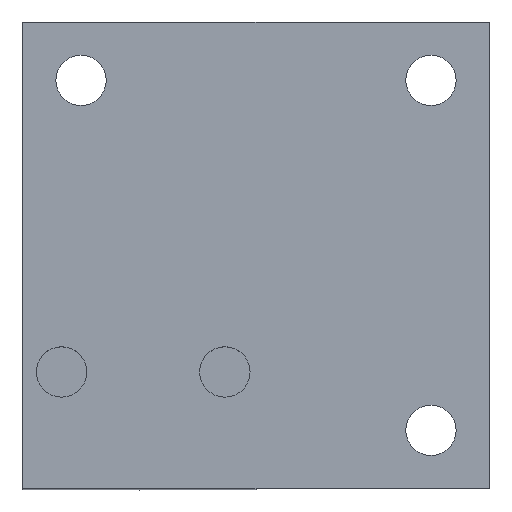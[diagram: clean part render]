
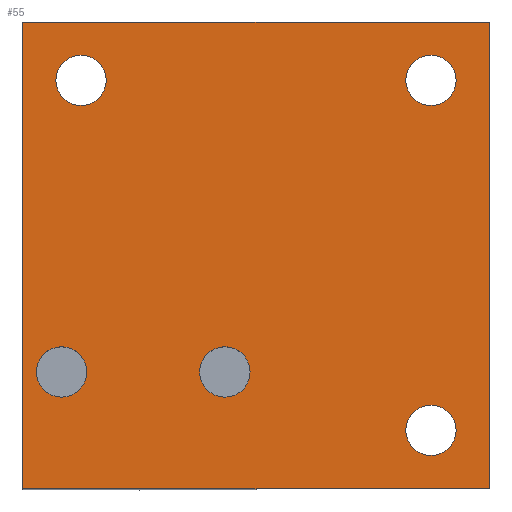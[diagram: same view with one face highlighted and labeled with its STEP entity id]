
A CAD part, top view. The second image highlights one B-rep face of the part: STEP entity #55.
In plain terms, the highlighted planar face has unit normal (0, 0, 1).
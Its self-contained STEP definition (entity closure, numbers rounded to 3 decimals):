
#55 = ADVANCED_FACE( '', ( #121, #122, #123, #124, #125, #126 ), #127, .T. );
#121 = FACE_BOUND( '', #205, .T. );
#122 = FACE_BOUND( '', #206, .T. );
#123 = FACE_OUTER_BOUND( '', #207, .T. );
#124 = FACE_BOUND( '', #208, .T. );
#125 = FACE_BOUND( '', #209, .T. );
#126 = FACE_BOUND( '', #210, .T. );
#127 = PLANE( '', #211 );
#205 = EDGE_LOOP( '', ( #308 ) );
#206 = EDGE_LOOP( '', ( #309 ) );
#207 = EDGE_LOOP( '', ( #310, #311, #312, #313 ) );
#208 = EDGE_LOOP( '', ( #314 ) );
#209 = EDGE_LOOP( '', ( #315 ) );
#210 = EDGE_LOOP( '', ( #316 ) );
#211 = AXIS2_PLACEMENT_3D( '', #317, #318, #319 );
#308 = ORIENTED_EDGE( '', *, *, #455, .F. );
#309 = ORIENTED_EDGE( '', *, *, #456, .F. );
#310 = ORIENTED_EDGE( '', *, *, #457, .T. );
#311 = ORIENTED_EDGE( '', *, *, #431, .T. );
#312 = ORIENTED_EDGE( '', *, *, #458, .T. );
#313 = ORIENTED_EDGE( '', *, *, #459, .T. );
#314 = ORIENTED_EDGE( '', *, *, #460, .F. );
#315 = ORIENTED_EDGE( '', *, *, #461, .F. );
#316 = ORIENTED_EDGE( '', *, *, #439, .F. );
#317 = CARTESIAN_POINT( '', ( 0., 0., 0. ) );
#318 = DIRECTION( '', ( 0., 0., 1. ) );
#319 = DIRECTION( '', ( 1., 0., 0. ) );
#431 = EDGE_CURVE( '', #494, #492, #495, .T. );
#439 = EDGE_CURVE( '', #508, #508, #509, .T. );
#455 = EDGE_CURVE( '', #533, #533, #534, .T. );
#456 = EDGE_CURVE( '', #535, #535, #536, .T. );
#457 = EDGE_CURVE( '', #537, #494, #538, .T. );
#458 = EDGE_CURVE( '', #492, #539, #540, .T. );
#459 = EDGE_CURVE( '', #539, #537, #541, .T. );
#460 = EDGE_CURVE( '', #542, #542, #543, .T. );
#461 = EDGE_CURVE( '', #544, #544, #545, .T. );
#492 = VERTEX_POINT( '', #582 );
#494 = VERTEX_POINT( '', #585 );
#495 = LINE( '', #586, #587 );
#508 = VERTEX_POINT( '', #605 );
#509 = CIRCLE( '', #606, 3.24 );
#533 = VERTEX_POINT( '', #636 );
#534 = CIRCLE( '', #637, 3.24 );
#535 = VERTEX_POINT( '', #638 );
#536 = CIRCLE( '', #639, 3.24 );
#537 = VERTEX_POINT( '', #640 );
#538 = LINE( '', #641, #642 );
#539 = VERTEX_POINT( '', #643 );
#540 = LINE( '', #644, #645 );
#541 = LINE( '', #646, #647 );
#542 = VERTEX_POINT( '', #648 );
#543 = CIRCLE( '', #649, 3.24 );
#544 = VERTEX_POINT( '', #650 );
#545 = CIRCLE( '', #651, 3.24 );
#582 = CARTESIAN_POINT( '', ( 7.5, -52.5, 0. ) );
#585 = CARTESIAN_POINT( '', ( -52.5, -52.5, 0. ) );
#586 = CARTESIAN_POINT( '', ( -52.5, -52.5, 0. ) );
#587 = VECTOR( '', #696, 1000. );
#605 = CARTESIAN_POINT( '', ( 3.24, 0., 0. ) );
#606 = AXIS2_PLACEMENT_3D( '', #705, #706, #707 );
#636 = CARTESIAN_POINT( '', ( -23.26, -37.5, 0. ) );
#637 = AXIS2_PLACEMENT_3D( '', #729, #730, #731 );
#638 = CARTESIAN_POINT( '', ( -44.26, -37.5, 0. ) );
#639 = AXIS2_PLACEMENT_3D( '', #732, #733, #734 );
#640 = CARTESIAN_POINT( '', ( -52.5, 7.5, 0. ) );
#641 = CARTESIAN_POINT( '', ( -52.5, 7.5, 0. ) );
#642 = VECTOR( '', #735, 1000. );
#643 = CARTESIAN_POINT( '', ( 7.5, 7.5, 0. ) );
#644 = CARTESIAN_POINT( '', ( 7.5, -52.5, 0. ) );
#645 = VECTOR( '', #736, 1000. );
#646 = CARTESIAN_POINT( '', ( 7.5, 7.5, 0. ) );
#647 = VECTOR( '', #737, 1000. );
#648 = CARTESIAN_POINT( '', ( -41.76, 0., 0. ) );
#649 = AXIS2_PLACEMENT_3D( '', #738, #739, #740 );
#650 = CARTESIAN_POINT( '', ( 3.24, -45., 0. ) );
#651 = AXIS2_PLACEMENT_3D( '', #741, #742, #743 );
#696 = DIRECTION( '', ( 1., 0., 0. ) );
#705 = CARTESIAN_POINT( '', ( 0., 0., 0. ) );
#706 = DIRECTION( '', ( 0., 0., 1. ) );
#707 = DIRECTION( '', ( 1., 0., 0. ) );
#729 = CARTESIAN_POINT( '', ( -26.5, -37.5, 0. ) );
#730 = DIRECTION( '', ( 0., 0., 1. ) );
#731 = DIRECTION( '', ( 1., 0., 0. ) );
#732 = CARTESIAN_POINT( '', ( -47.5, -37.5, 0. ) );
#733 = DIRECTION( '', ( 0., 0., 1. ) );
#734 = DIRECTION( '', ( 1., 0., 0. ) );
#735 = DIRECTION( '', ( 0., -1., 0. ) );
#736 = DIRECTION( '', ( 0., 1., 0. ) );
#737 = DIRECTION( '', ( -1., 0., 0. ) );
#738 = CARTESIAN_POINT( '', ( -45., 0., 0. ) );
#739 = DIRECTION( '', ( 0., 0., 1. ) );
#740 = DIRECTION( '', ( 1., 0., 0. ) );
#741 = CARTESIAN_POINT( '', ( 0., -45., 0. ) );
#742 = DIRECTION( '', ( 0., 0., 1. ) );
#743 = DIRECTION( '', ( 1., 0., 0. ) );
